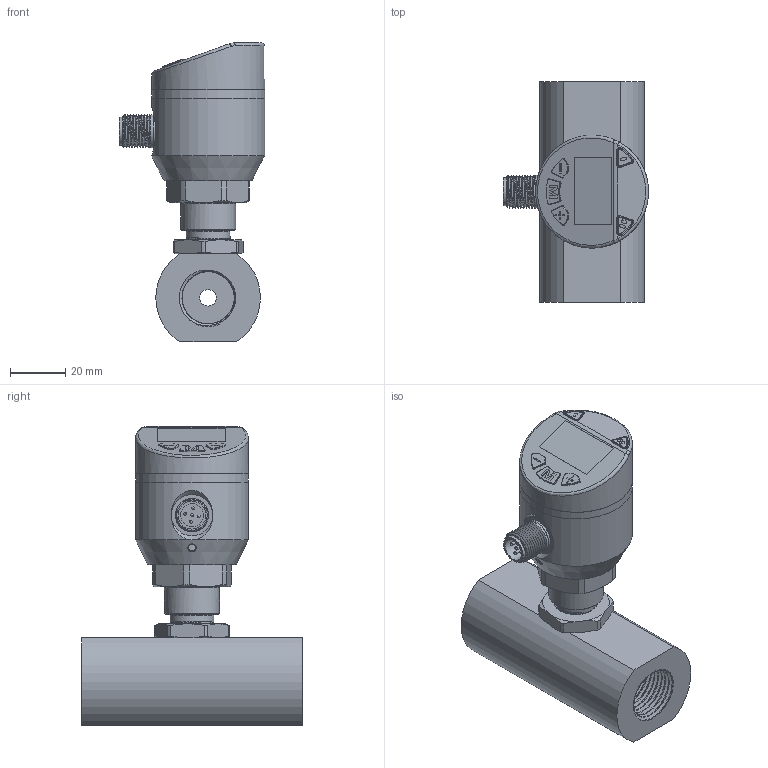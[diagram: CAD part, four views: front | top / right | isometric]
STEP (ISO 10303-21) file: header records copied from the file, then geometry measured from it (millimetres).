
FILE_DESCRIPTION( (''), '2;1');
FILE_NAME( 'QTKA_DN6_female-thread.step', '2024-01-11T15:04:17+08:00', (''), (''), '', '', '');
FILE_SCHEMA (('AUTOMOTIVE_DESIGN { 1 0 10303 214 3 1 1 1 }'));
Length unit declared in the file: millimetre
Products named in the file (1): QTKA DN6_female-thread
Bounding box: 52.7 x 80 x 108.8 mm (x, y, z)
Volume: 100381.6 mm3; surface area: 42589.6 mm2
Topology: 5 solids, 7 shells, 429 faces, 1040 edges, 659 vertices
Faces by surface type: plane 150, cylinder 139, cone 49, bspline 46, torus 39, sphere 6
Full cylindrical faces by diameter (mm): 1 x5, 2.7 x4, 6 x1, 8.4 x1, 9.7 x1, 9.8 x1, 10.1 x1, 11.6 x1, 12 x1, 15 x1, 15.9 x1, 20 x1, 23 x3, 26 x4, 26.1 x1, 37 x1, 41 x3
Entity records: 33714 total; most frequent: CARTESIAN_POINT 22818, ORIENTED_EDGE 1908, DIRECTION 1888, EDGE_CURVE 954, AXIS2_PLACEMENT_3D 751, VERTEX_POINT 625, EDGE_LOOP 521, ADVANCED_FACE 427
